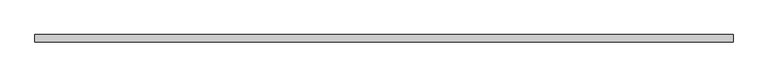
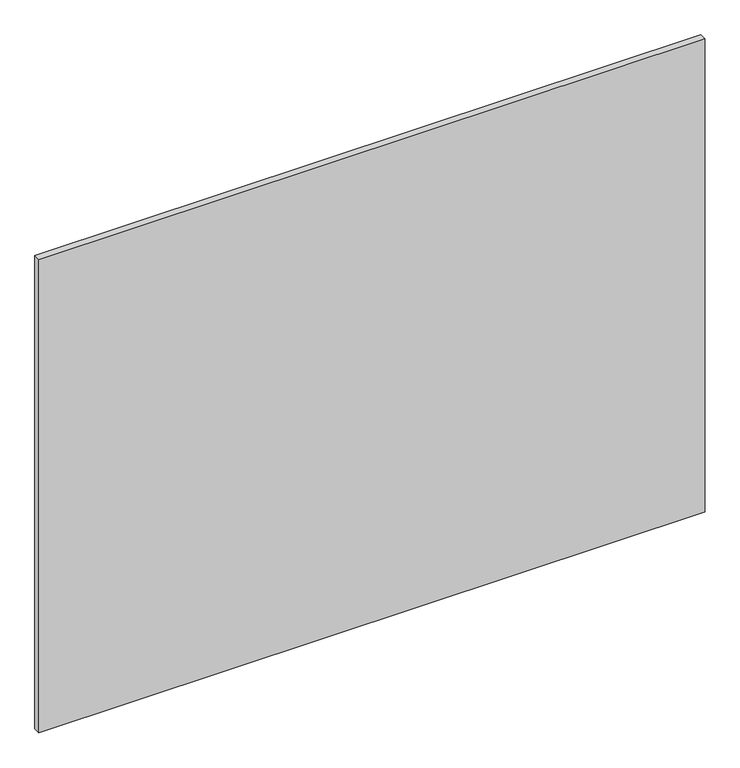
"""IFC4 building model written with IfcOpenShell, lengths in millimetres: proxy geometry, AQUAPANEL showcase solid : AQUAPANEL showcase solid."""

from ifc_helpers import new_model, si_unit, frame, origin, place, context, project, spatial, polyline, outline, extrude, source, transform, mapped, element, save


def generic_models_274f2d4b(model_context):
    return source(origin(), model_context, "Body", "SweptSolid", [
        extrude(outline(polyline([(17934.4069285, 15445.8863455), (19130.5306452, 15445.8863455), (19130.5306452, 15433.3863455), (17934.4069285, 15433.3863455), (17934.4069285, 15445.8863455)])), frame((0.0, 0.0, 598.9503676), z_axis=(0.0, 0.0, 1.0), x_axis=(1.0, 0.0, 0.0)), (0.0, 0.0, 1.0), 898.6657632),
    ])


if __name__ == "__main__":
    model = new_model("IFC4")
    model_context = context("Model", 3, world=origin())
    ifc_project = project(units=[si_unit("LENGTHUNIT", "METRE", prefix="MILLI")], contexts=[model_context])
    site = spatial("IfcSite", under=ifc_project)
    building = spatial("IfcBuilding", under=site)
    placement = place(None, origin())
    generic_models_shape = generic_models_274f2d4b(model_context)
    element("IfcBuildingElementProxy", 1, Name="AQUAPANEL showcase solid : AQUAPANEL showcase solid", ObjectType="AQUAPANEL showcase solid : AQUAPANEL showcase solid", at=placement, inside=building, context=model_context, shape_type="MappedRepresentation", body=[
        mapped(generic_models_shape, transform((0.0, 0.0, 0.0), x_axis=(1.0, 0.0, 0.0), y_axis=(0.0, 1.0, 0.0), z_axis=(0.0, 0.0, 1.0))),
    ])
    save(model, "model.ifc")
